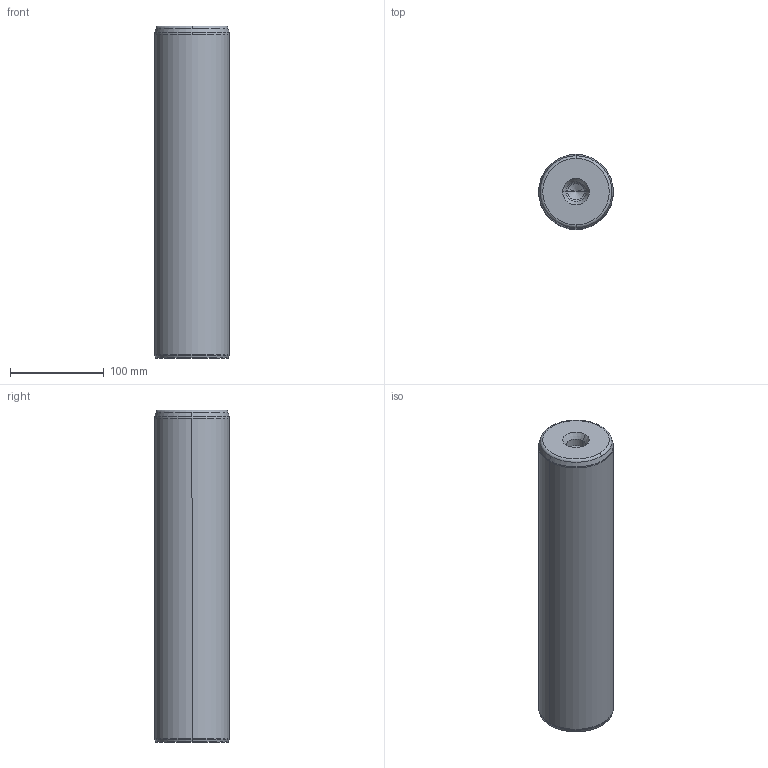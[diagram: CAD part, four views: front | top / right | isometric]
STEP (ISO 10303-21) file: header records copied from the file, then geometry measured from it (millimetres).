
FILE_DESCRIPTION((''),'2;1');
FILE_NAME('P10_080_355.stp','2008-12-23T15:08:31',(''),(''),'Mechanical Desktop 2009','Mechanical Desktop 2009',', , ');
FILE_SCHEMA(('CONFIG_CONTROL_DESIGN'));
Length unit declared in the file: millimetre
Products named in the file (5): Product; ProductAA; blmdl1; ProductA; blmdl1A
Assembly tree (2 placements, depth 3):
  Product
    ProductAA
      blmdl1
  ProductA
  blmdl1A
Bounding box: 80 x 80 x 355 mm (x, y, z)
Volume: 1765943.4 mm3; surface area: 101296.3 mm2
Topology: 1 solids, 1 shells, 26 faces, 66 edges, 41 vertices
Faces by surface type: cone 10, torus 8, cylinder 6, plane 2
Entity records: 1012 total; most frequent: DIRECTION 170, CARTESIAN_POINT 134, ORIENTED_EDGE 128, AXIS2_PLACEMENT_3D 77, EDGE_CURVE 64, CIRCLE 48, VERTEX_POINT 41, EDGE_LOOP 27
